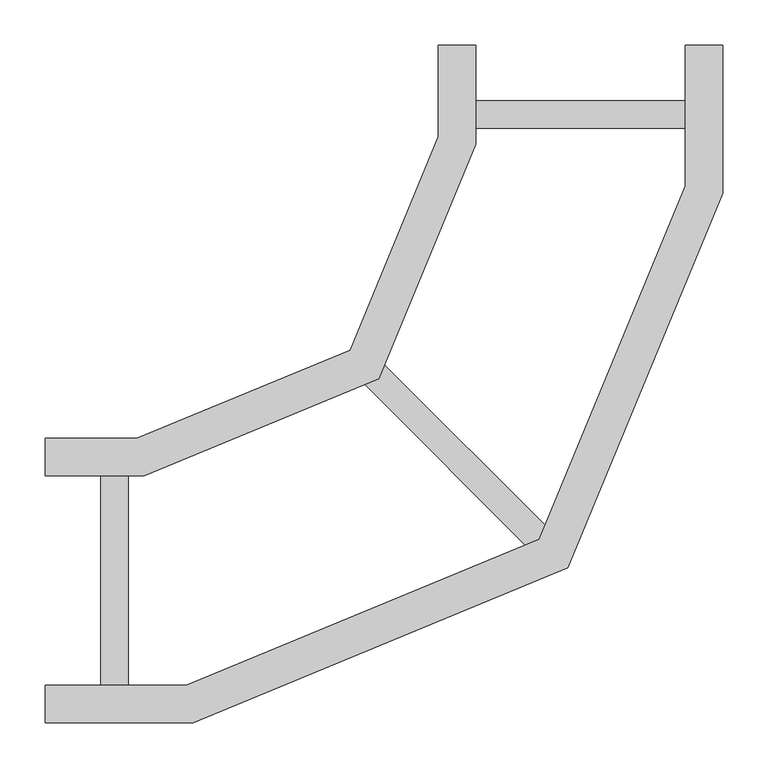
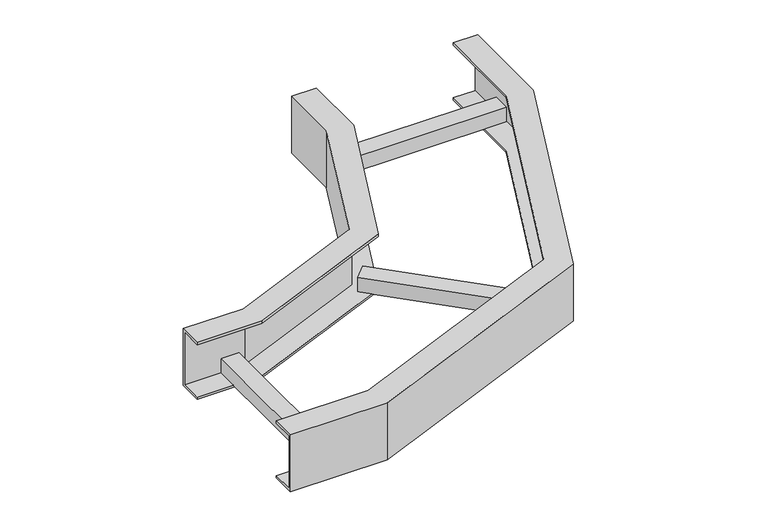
"""IFC4 building model written with IfcOpenShell, lengths in millimetres: cable carrier fitting geometry, CPEFV_Horizontal_Bend-Fibertrav : Fibertrav CPEFV-12."""

from ifc_helpers import new_model, si_unit, frame, origin, place, context, project, spatial, polyline, outline, extrude, faceted_brep, source, transform, mapped, element, save


def cable_carrier_fitting_ade1a343(model_context):
    return source(origin(), model_context, "Body", "SolidModel", [
        faceted_brep([(-589.1142448, 156.4, -50.8), (-589.1142448, 115.4, -50.8), (-589.1142448, 115.4, -46.8), (-589.1142448, 152.4, -46.8), (-589.1142448, 152.4, 46.8), (-589.1142448, 115.4, 46.8), (-589.1142448, 115.4, 50.8), (-589.1142448, 156.4, 50.8), (-156.4, 589.1142448, -50.8), (-156.4, 589.1142448, 50.8), (-115.4, 589.1142448, 50.8), (-115.4, 589.1142448, 46.8), (-152.4, 589.1142448, 46.8), (-152.4, 589.1142448, -46.8), (-115.4, 589.1142448, -46.8), (-115.4, 589.1142448, -50.8), (-488.3098943, 156.4, 50.8), (-488.3098943, 156.4, -50.8), (-253.6141573, 253.6141573, -50.8), (-156.4, 488.3098943, -50.8), (-115.4, 480.1544872, -50.8), (-222.2341158, 222.2341158, -50.8), (-480.1544872, 115.4, -50.8), (-480.1544872, 115.4, -46.8), (-222.2341158, 222.2341158, -46.8), (-115.4, 480.1544872, -46.8), (-152.4, 487.5142448, -46.8), (-250.5526898, 250.5526898, -46.8), (-487.5142448, 152.4, -46.8), (-487.5142448, 152.4, 46.8), (-250.5526898, 250.5526898, 46.8), (-152.4, 487.5142448, 46.8), (-115.4, 480.1544872, 46.8), (-222.2341158, 222.2341158, 46.8), (-480.1544872, 115.4, 46.8), (-480.1544872, 115.4, 50.8), (-222.2341158, 222.2341158, 50.8), (-115.4, 480.1544872, 50.8), (-156.4, 488.3098943, 50.8), (-253.6141573, 253.6141573, 50.8)], [[[0, 1, 2, 3, 4, 5, 6, 7]], [[8, 9, 10, 11, 12, 13, 14, 15]], [[0, 7, 16, 17]], [[1, 0, 17, 18, 19, 8, 15, 20, 21, 22]], [[2, 1, 22, 23]], [[3, 2, 23, 24, 25, 14, 13, 26, 27, 28]], [[4, 3, 28, 29]], [[5, 4, 29, 30, 31, 12, 11, 32, 33, 34]], [[6, 5, 34, 35]], [[7, 6, 35, 36, 37, 10, 9, 38, 39, 16]], [[19, 38, 9, 8]], [[25, 20, 15, 14]], [[31, 26, 13, 12]], [[37, 32, 11, 10]], [[17, 16, 39, 18]], [[23, 22, 21, 24]], [[29, 28, 27, 30]], [[35, 34, 33, 36]], [[18, 39, 38, 19]], [[24, 21, 20, 25]], [[30, 27, 26, 31]], [[36, 33, 32, 37]]]),
        extrude(outline(polyline([(-152.4, 497.6642448), (-152.4, 528.1642448), (152.4, 528.1642448), (152.4, 497.6642448), (-152.4, 497.6642448)])), frame((0.0, 0.0, -46.83125), z_axis=(0.0, 0.0, 1.0), x_axis=(1.0, 0.0, 0.0)), (0.0, 0.0, 1.0), 25.4),
        extrude(outline(polyline([(-528.1642448, 152.4), (-497.6642448, 152.4), (-497.6642448, -152.4), (-528.1642448, -152.4), (-528.1642448, 152.4)])), frame((0.0, 0.0, -46.83125), z_axis=(0.0, 0.0, 1.0), x_axis=(1.0, 0.0, 0.0)), (0.0, 0.0, 1.0), 25.4),
        extrude(outline(polyline([(-252.4572315, 230.8904747), (-230.8904747, 252.4572315), (-15.3643278, 36.9310846), (-36.9310846, 15.3643278), (-252.4572315, 230.8904747)])), frame((0.0, 0.0, -46.83125), z_axis=(0.0, 0.0, 1.0), x_axis=(1.0, 0.0, 0.0)), (0.0, 0.0, 1.0), 25.4),
        faceted_brep([(-589.1142448, -156.4, -50.8), (-589.1142448, -156.4, 50.8), (-589.1142448, -115.4, 50.8), (-589.1142448, -115.4, 46.8), (-589.1142448, -152.4, 46.8), (-589.1142448, -152.4, -46.8), (-589.1142448, -115.4, -46.8), (-589.1142448, -115.4, -50.8), (156.4, 589.1142448, -50.8), (115.4, 589.1142448, -50.8), (115.4, 589.1142448, -46.8), (152.4, 589.1142448, -46.8), (152.4, 589.1142448, 46.8), (115.4, 589.1142448, 46.8), (115.4, 589.1142448, 50.8), (156.4, 589.1142448, 50.8), (-426.0901057, -156.4, 50.8), (-14.207402, 14.207402, 50.8), (156.4, 426.0901057, 50.8), (115.4, 434.2455128, 50.8), (-45.5874435, 45.5874435, 50.8), (-434.2455128, -115.4, 50.8), (-434.2455128, -115.4, 46.8), (-45.5874435, 45.5874435, 46.8), (115.4, 434.2455128, 46.8), (152.4, 426.8857552, 46.8), (-17.2688695, 17.2688695, 46.8), (-426.8857552, -152.4, 46.8), (-426.8857552, -152.4, -46.8), (-17.2688695, 17.2688695, -46.8), (152.4, 426.8857552, -46.8), (115.4, 434.2455128, -46.8), (-45.5874435, 45.5874435, -46.8), (-434.2455128, -115.4, -46.8), (-434.2455128, -115.4, -50.8), (-45.5874435, 45.5874435, -50.8), (115.4, 434.2455128, -50.8), (156.4, 426.0901057, -50.8), (-14.207402, 14.207402, -50.8), (-426.0901057, -156.4, -50.8)], [[[0, 1, 2, 3, 4, 5, 6, 7]], [[8, 9, 10, 11, 12, 13, 14, 15]], [[2, 1, 16, 17, 18, 15, 14, 19, 20, 21]], [[3, 2, 21, 22]], [[4, 3, 22, 23, 24, 13, 12, 25, 26, 27]], [[5, 4, 27, 28]], [[6, 5, 28, 29, 30, 11, 10, 31, 32, 33]], [[7, 6, 33, 34]], [[0, 7, 34, 35, 36, 9, 8, 37, 38, 39]], [[1, 0, 39, 16]], [[24, 19, 14, 13]], [[30, 25, 12, 11]], [[36, 31, 10, 9]], [[18, 37, 8, 15]], [[22, 21, 20, 23]], [[28, 27, 26, 29]], [[34, 33, 32, 35]], [[16, 39, 38, 17]], [[23, 20, 19, 24]], [[29, 26, 25, 30]], [[35, 32, 31, 36]], [[17, 38, 37, 18]]]),
    ])


if __name__ == "__main__":
    model = new_model("IFC4")
    model_context = context("Model", 3, world=origin())
    ifc_project = project(units=[si_unit("LENGTHUNIT", "METRE", prefix="MILLI")], contexts=[model_context])
    site = spatial("IfcSite", under=ifc_project)
    building = spatial("IfcBuilding", under=site)
    placement = place(None, origin())
    cable_carrier_fitting_shape = cable_carrier_fitting_ade1a343(model_context)
    element("IfcCableCarrierFitting", 1, ObjectType="CPEFV_Horizontal_Bend-Fibertrav : Fibertrav CPEFV-12", at=placement, inside=building, context=model_context, shape_type="MappedRepresentation", body=[
        mapped(cable_carrier_fitting_shape, transform((0.0, 0.0, 0.0), x_axis=(1.0, 0.0, 0.0), y_axis=(0.0, 1.0, 0.0), z_axis=(0.0, 0.0, 1.0))),
    ])
    save(model, "model.ifc")
